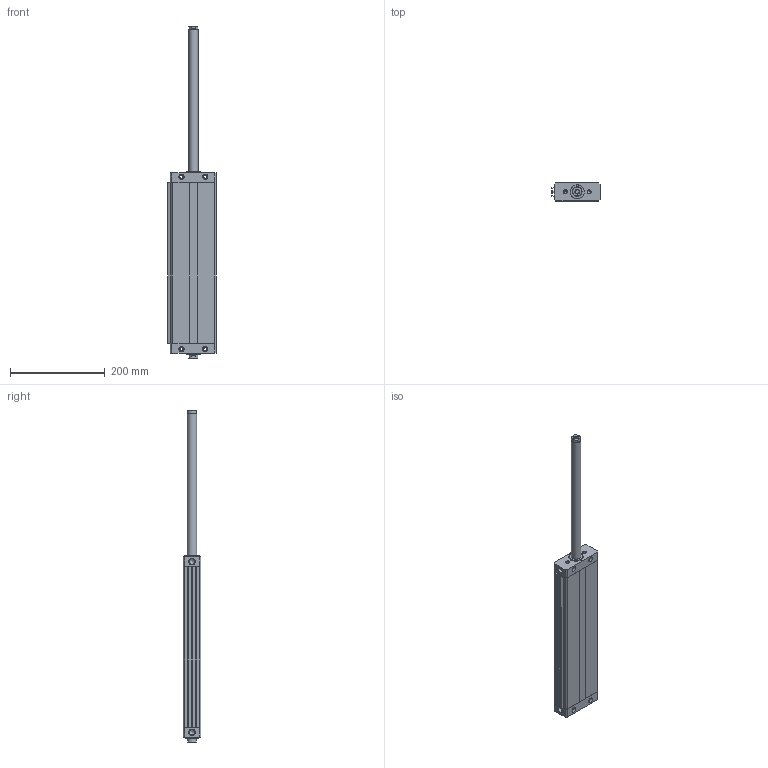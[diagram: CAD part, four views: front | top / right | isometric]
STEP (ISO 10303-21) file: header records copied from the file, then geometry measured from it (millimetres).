
FILE_DESCRIPTION((''),'2;1');
FILE_NAME('I:\Area Tecnica\Disegni\VARIE-3D\Componenti\1370 - CPO\1370_##_0000_03\1370_50_0300_03-01.iam.step','2010-12-16T11:00:18',(''),(''),'Autodesk Inventor 2011','Autodesk Inventor 2011','');
FILE_SCHEMA(('AUTOMOTIVE_DESIGN { 1 0 10303 214 1 1 1 1 }'));
Length unit declared in the file: millimetre
Products named in the file (5): 1370_50_0300_03-01; 1370_05_50_0000; 1370_06_50_0300; 1370_08_50_0000; 1370_3_50_0300
Assembly tree (4 placements, depth 2):
  1370_50_0300_03-01
    1370_05_50_0000
    1370_06_50_0300
    1370_08_50_0000
    1370_3_50_0300
Bounding box: 102.5 x 38 x 702 mm (x, y, z)
Volume: 944499.3 mm3; surface area: 261580.6 mm2
Topology: 4 solids, 4 shells, 164 faces, 398 edges, 252 vertices
Faces by surface type: plane 94, cylinder 50, cone 20
Full cylindrical faces by diameter (mm): 6.8 x18, 8.5 x2, 10.3 x2, 11 x8, 11.75 x2, 20 x4, 30 x2
Entity records: 4722 total; most frequent: DIRECTION 794, CARTESIAN_POINT 737, ORIENTED_EDGE 652, EDGE_CURVE 326, AXIS2_PLACEMENT_3D 295, EDGE_LOOP 254, VERTEX_POINT 238, VECTOR 204
